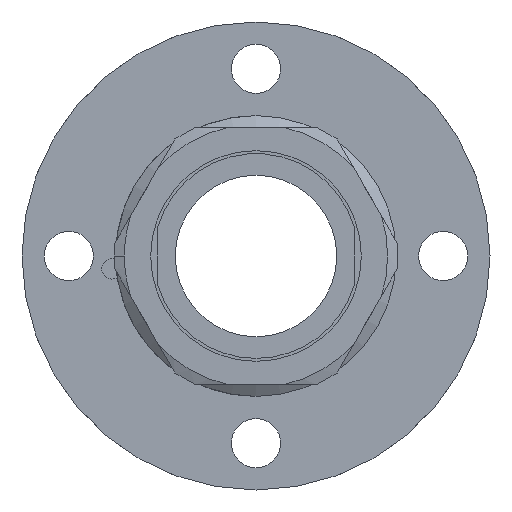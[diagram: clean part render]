
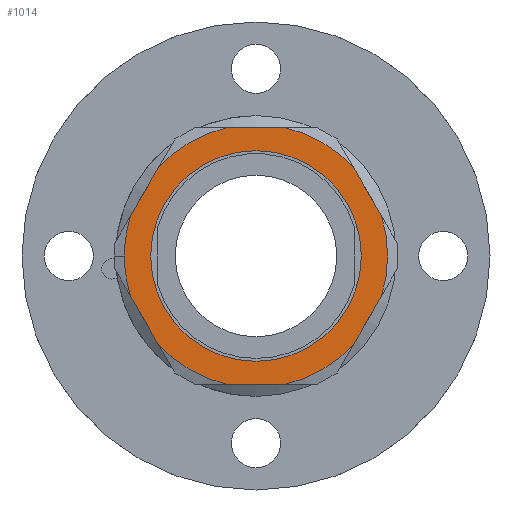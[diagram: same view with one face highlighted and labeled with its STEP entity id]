
A CAD part, front view. The second image highlights one B-rep face of the part: STEP entity #1014.
In plain terms, the highlighted planar face has unit normal (0, -1, 0).
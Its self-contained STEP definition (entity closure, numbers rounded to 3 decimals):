
#4 = AXIS2_PLACEMENT_3D ( 'NONE', #1802, #2401, #164 ) ;
#14 = DIRECTION ( 'NONE',  ( 1., 0., 0. ) ) ;
#15 = DIRECTION ( 'NONE',  ( 0., -1., 0. ) ) ;
#74 = VERTEX_POINT ( 'NONE', #1658 ) ;
#135 = AXIS2_PLACEMENT_3D ( 'NONE', #2038, #328, #3338 ) ;
#140 = AXIS2_PLACEMENT_3D ( 'NONE', #3004, #15, #2989 ) ;
#145 = CARTESIAN_POINT ( 'NONE',  ( -10.706, -7.5, 3.457 ) ) ;
#153 = DIRECTION ( 'NONE',  ( 0., -1., 0. ) ) ;
#164 = DIRECTION ( 'NONE',  ( 1., 0., 0. ) ) ;
#205 = CIRCLE ( 'NONE', #135, 11.25 ) ;
#209 = EDGE_CURVE ( 'NONE', #3513, #2924, #552, .T. ) ;
#251 = LINE ( 'NONE', #411, #2267 ) ;
#328 = DIRECTION ( 'NONE',  ( 0., -1., 0. ) ) ;
#337 = CARTESIAN_POINT ( 'NONE',  ( 0., -7.5, 9. ) ) ;
#363 = VERTEX_POINT ( 'NONE', #145 ) ;
#394 = EDGE_CURVE ( 'NONE', #4059, #4187, #3701, .T. ) ;
#396 = DIRECTION ( 'NONE',  ( 0., -1., 0. ) ) ;
#404 = FACE_BOUND ( 'NONE', #1485, .T. ) ;
#406 = VERTEX_POINT ( 'NONE', #2796 ) ;
#411 = CARTESIAN_POINT ( 'NONE',  ( -6.351, -7.5, 11. ) ) ;
#420 = AXIS2_PLACEMENT_3D ( 'NONE', #3495, #1225, #1187 ) ;
#445 = EDGE_CURVE ( 'NONE', #406, #4059, #630, .T. ) ;
#490 = DIRECTION ( 'NONE',  ( 0., 0., -1. ) ) ;
#534 = DIRECTION ( 'NONE',  ( -1., 0., 0. ) ) ;
#552 = CIRCLE ( 'NONE', #3486, 9. ) ;
#559 = DIRECTION ( 'NONE',  ( 0., -1., 0. ) ) ;
#621 = VECTOR ( 'NONE', #1254, 1000. ) ;
#626 = CIRCLE ( 'NONE', #420, 11.25 ) ;
#630 = CIRCLE ( 'NONE', #756, 11.25 ) ;
#696 = CARTESIAN_POINT ( 'NONE',  ( 2.358, -7.5, 11. ) ) ;
#732 = CARTESIAN_POINT ( 'NONE',  ( -2.358, -7.5, -11. ) ) ;
#756 = AXIS2_PLACEMENT_3D ( 'NONE', #1194, #1257, #3884 ) ;
#784 = EDGE_CURVE ( 'NONE', #2924, #3513, #894, .T. ) ;
#833 = CARTESIAN_POINT ( 'NONE',  ( 10.706, -7.5, 3.457 ) ) ;
#894 = CIRCLE ( 'NONE', #2134, 9. ) ;
#1000 = LINE ( 'NONE', #2975, #1428 ) ;
#1014 = ADVANCED_FACE ( 'NONE', ( #404, #3626 ), #1696, .T. ) ;
#1089 = AXIS2_PLACEMENT_3D ( 'NONE', #3804, #559, #2220 ) ;
#1114 = VERTEX_POINT ( 'NONE', #3041 ) ;
#1130 = ORIENTED_EDGE ( 'NONE', *, *, #2039, .T. ) ;
#1158 = VERTEX_POINT ( 'NONE', #732 ) ;
#1164 = VERTEX_POINT ( 'NONE', #2044 ) ;
#1167 = CARTESIAN_POINT ( 'NONE',  ( 0., -7.5, 0. ) ) ;
#1187 = DIRECTION ( 'NONE',  ( 1., 0., 0. ) ) ;
#1194 = CARTESIAN_POINT ( 'NONE',  ( 0., -7.5, 0. ) ) ;
#1199 = CARTESIAN_POINT ( 'NONE',  ( -2.358, -7.5, 11. ) ) ;
#1204 = ORIENTED_EDGE ( 'NONE', *, *, #1565, .T. ) ;
#1225 = DIRECTION ( 'NONE',  ( 0., -1., 0. ) ) ;
#1254 = DIRECTION ( 'NONE',  ( 0.5, 0., 0.866 ) ) ;
#1257 = DIRECTION ( 'NONE',  ( 0., -1., 0. ) ) ;
#1390 = CARTESIAN_POINT ( 'NONE',  ( 0., -7.5, 0. ) ) ;
#1428 = VECTOR ( 'NONE', #1672, 1000. ) ;
#1443 = AXIS2_PLACEMENT_3D ( 'NONE', #1994, #1973, #3262 ) ;
#1485 = EDGE_LOOP ( 'NONE', ( #2116, #2295 ) ) ;
#1514 = CIRCLE ( 'NONE', #1443, 11.25 ) ;
#1565 = EDGE_CURVE ( 'NONE', #4187, #1164, #626, .T. ) ;
#1635 = LINE ( 'NONE', #2942, #1983 ) ;
#1652 = ORIENTED_EDGE ( 'NONE', *, *, #2591, .T. ) ;
#1658 = CARTESIAN_POINT ( 'NONE',  ( -8.347, -7.5, -7.543 ) ) ;
#1672 = DIRECTION ( 'NONE',  ( -0.5, 0., 0.866 ) ) ;
#1696 = PLANE ( 'NONE',  #140 ) ;
#1705 = CARTESIAN_POINT ( 'NONE',  ( -12.702, -7.5, 0. ) ) ;
#1761 = EDGE_CURVE ( 'NONE', #1158, #3219, #1635, .T. ) ;
#1783 = CIRCLE ( 'NONE', #4, 11.25 ) ;
#1794 = ORIENTED_EDGE ( 'NONE', *, *, #2500, .T. ) ;
#1802 = CARTESIAN_POINT ( 'NONE',  ( 0., -7.5, 0. ) ) ;
#1969 = ORIENTED_EDGE ( 'NONE', *, *, #2308, .T. ) ;
#1973 = DIRECTION ( 'NONE',  ( 0., -1., 0. ) ) ;
#1983 = VECTOR ( 'NONE', #14, 1000. ) ;
#1994 = CARTESIAN_POINT ( 'NONE',  ( 0., -7.5, 0. ) ) ;
#1998 = ORIENTED_EDGE ( 'NONE', *, *, #2107, .T. ) ;
#2014 = LINE ( 'NONE', #3280, #621 ) ;
#2038 = CARTESIAN_POINT ( 'NONE',  ( 0., -7.5, 0. ) ) ;
#2039 = EDGE_CURVE ( 'NONE', #2481, #3623, #4021, .T. ) ;
#2044 = CARTESIAN_POINT ( 'NONE',  ( -8.347, -7.5, 7.543 ) ) ;
#2054 = VECTOR ( 'NONE', #4206, 1000. ) ;
#2107 = EDGE_CURVE ( 'NONE', #3623, #406, #1000, .T. ) ;
#2116 = ORIENTED_EDGE ( 'NONE', *, *, #784, .F. ) ;
#2134 = AXIS2_PLACEMENT_3D ( 'NONE', #1167, #3413, #490 ) ;
#2220 = DIRECTION ( 'NONE',  ( 1., 0., 0. ) ) ;
#2267 = VECTOR ( 'NONE', #2650, 1000. ) ;
#2295 = ORIENTED_EDGE ( 'NONE', *, *, #209, .F. ) ;
#2308 = EDGE_CURVE ( 'NONE', #3583, #2481, #2014, .T. ) ;
#2401 = DIRECTION ( 'NONE',  ( 0., -1., 0. ) ) ;
#2455 = CARTESIAN_POINT ( 'NONE',  ( 10.706, -7.5, -3.457 ) ) ;
#2457 = ORIENTED_EDGE ( 'NONE', *, *, #445, .T. ) ;
#2481 = VERTEX_POINT ( 'NONE', #2455 ) ;
#2500 = EDGE_CURVE ( 'NONE', #1164, #363, #251, .T. ) ;
#2511 = EDGE_CURVE ( 'NONE', #2588, #74, #3655, .T. ) ;
#2588 = VERTEX_POINT ( 'NONE', #2713 ) ;
#2591 = EDGE_CURVE ( 'NONE', #1114, #2588, #1783, .T. ) ;
#2650 = DIRECTION ( 'NONE',  ( -0.5, 0., -0.866 ) ) ;
#2676 = VECTOR ( 'NONE', #534, 1000. ) ;
#2684 = CIRCLE ( 'NONE', #3783, 11.25 ) ;
#2699 = DIRECTION ( 'NONE',  ( 0., 0., -1. ) ) ;
#2713 = CARTESIAN_POINT ( 'NONE',  ( -10.706, -7.5, -3.457 ) ) ;
#2748 = EDGE_CURVE ( 'NONE', #363, #1114, #205, .T. ) ;
#2760 = CARTESIAN_POINT ( 'NONE',  ( 6.351, -7.5, 11. ) ) ;
#2796 = CARTESIAN_POINT ( 'NONE',  ( 8.347, -7.5, 7.543 ) ) ;
#2862 = ORIENTED_EDGE ( 'NONE', *, *, #394, .T. ) ;
#2875 = EDGE_LOOP ( 'NONE', ( #1998, #2457, #2862, #1204, #1794, #3501, #1652, #3003, #2918, #3460, #3645, #1969, #1130 ) ) ;
#2918 = ORIENTED_EDGE ( 'NONE', *, *, #3854, .T. ) ;
#2924 = VERTEX_POINT ( 'NONE', #3759 ) ;
#2942 = CARTESIAN_POINT ( 'NONE',  ( -6.351, -7.5, -11. ) ) ;
#2975 = CARTESIAN_POINT ( 'NONE',  ( 12.702, -7.5, 0. ) ) ;
#2989 = DIRECTION ( 'NONE',  ( 1., 0., 0. ) ) ;
#3003 = ORIENTED_EDGE ( 'NONE', *, *, #2511, .T. ) ;
#3004 = CARTESIAN_POINT ( 'NONE',  ( 0., -7.5, 0. ) ) ;
#3041 = CARTESIAN_POINT ( 'NONE',  ( -11.25, -7.5, 0. ) ) ;
#3128 = DIRECTION ( 'NONE',  ( 1., 0., 0. ) ) ;
#3188 = EDGE_CURVE ( 'NONE', #3219, #3583, #1514, .T. ) ;
#3219 = VERTEX_POINT ( 'NONE', #3333 ) ;
#3262 = DIRECTION ( 'NONE',  ( 1., 0., 0. ) ) ;
#3280 = CARTESIAN_POINT ( 'NONE',  ( 6.351, -7.5, -11. ) ) ;
#3333 = CARTESIAN_POINT ( 'NONE',  ( 2.358, -7.5, -11. ) ) ;
#3338 = DIRECTION ( 'NONE',  ( 1., 0., 0. ) ) ;
#3413 = DIRECTION ( 'NONE',  ( 0., -1., 0. ) ) ;
#3460 = ORIENTED_EDGE ( 'NONE', *, *, #1761, .T. ) ;
#3467 = CARTESIAN_POINT ( 'NONE',  ( 8.347, -7.5, -7.543 ) ) ;
#3486 = AXIS2_PLACEMENT_3D ( 'NONE', #1390, #396, #2699 ) ;
#3495 = CARTESIAN_POINT ( 'NONE',  ( 0., -7.5, 0. ) ) ;
#3501 = ORIENTED_EDGE ( 'NONE', *, *, #2748, .T. ) ;
#3513 = VERTEX_POINT ( 'NONE', #337 ) ;
#3583 = VERTEX_POINT ( 'NONE', #3467 ) ;
#3623 = VERTEX_POINT ( 'NONE', #833 ) ;
#3626 = FACE_OUTER_BOUND ( 'NONE', #2875, .T. ) ;
#3645 = ORIENTED_EDGE ( 'NONE', *, *, #3188, .T. ) ;
#3655 = LINE ( 'NONE', #1705, #2054 ) ;
#3701 = LINE ( 'NONE', #2760, #2676 ) ;
#3759 = CARTESIAN_POINT ( 'NONE',  ( 0., -7.5, -9. ) ) ;
#3783 = AXIS2_PLACEMENT_3D ( 'NONE', #4084, #153, #3128 ) ;
#3804 = CARTESIAN_POINT ( 'NONE',  ( 0., -7.5, 0. ) ) ;
#3854 = EDGE_CURVE ( 'NONE', #74, #1158, #2684, .T. ) ;
#3884 = DIRECTION ( 'NONE',  ( 1., 0., 0. ) ) ;
#4021 = CIRCLE ( 'NONE', #1089, 11.25 ) ;
#4059 = VERTEX_POINT ( 'NONE', #696 ) ;
#4084 = CARTESIAN_POINT ( 'NONE',  ( 0., -7.5, 0. ) ) ;
#4187 = VERTEX_POINT ( 'NONE', #1199 ) ;
#4206 = DIRECTION ( 'NONE',  ( 0.5, 0., -0.866 ) ) ;
